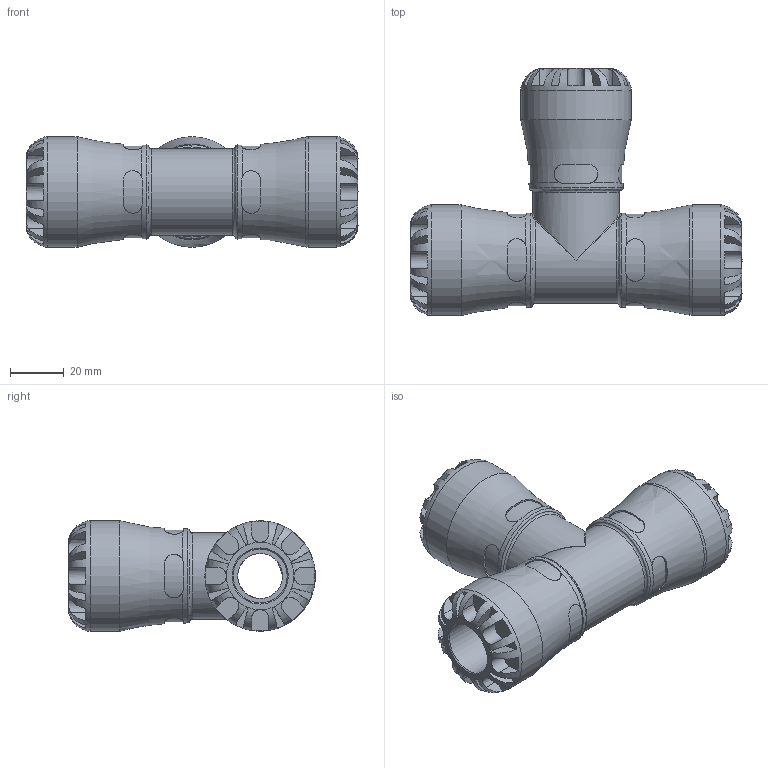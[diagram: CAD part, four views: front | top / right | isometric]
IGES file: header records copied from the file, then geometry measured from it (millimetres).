
Global section: file name: 100400020_190400020.ipt; native system: Autodesk Inventor 2015; preprocessor: unknown; author: KIM; date: 20180211.125741; units: millimetre
Bounding box: 123 x 91.5 x 41 mm (x, y, z)
Volume: 128818.5 mm3; surface area: 37175.4 mm2
Topology: 1 solids, 1 shells, 296 faces, 801 edges, 506 vertices
Faces by surface type: plane 174, revolution 68, cylinder 44, bspline 10
Full cylindrical faces by diameter (mm): 31.98 x1, 34.85 x3, 41 x3
